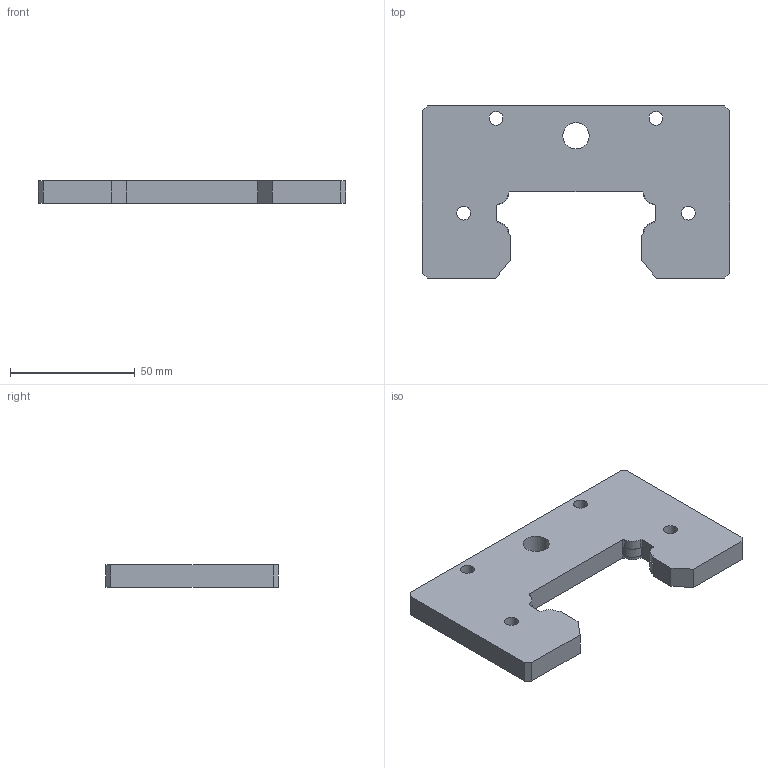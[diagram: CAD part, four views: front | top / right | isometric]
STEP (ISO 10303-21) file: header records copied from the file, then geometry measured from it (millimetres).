
FILE_DESCRIPTION (( 'STEP AP203' ), '1' );
FILE_NAME ('MF 65A.STEP', '2014-12-02T23:42:22', ( 'john' ), ( '' ), 'SwSTEP 2.0', 'SolidWorks 2013', '' );
FILE_SCHEMA (( 'CONFIG_CONTROL_DESIGN' ));
Length unit declared in the file: millimetre
Products named in the file (1): MF 65A
Bounding box: 123 x 69 x 9 mm (x, y, z)
Volume: 56898.6 mm3; surface area: 17649.3 mm2
Topology: 1 solids, 1 shells, 51 faces, 147 edges, 98 vertices
Faces by surface type: plane 34, cylinder 17
Full cylindrical faces by diameter (mm): 5.5 x4, 10.5 x1
Entity records: 1747 total; most frequent: CARTESIAN_POINT 292, ORIENTED_EDGE 284, DIRECTION 280, EDGE_CURVE 142, LINE 108, VECTOR 108, VERTEX_POINT 98, AXIS2_PLACEMENT_3D 86
